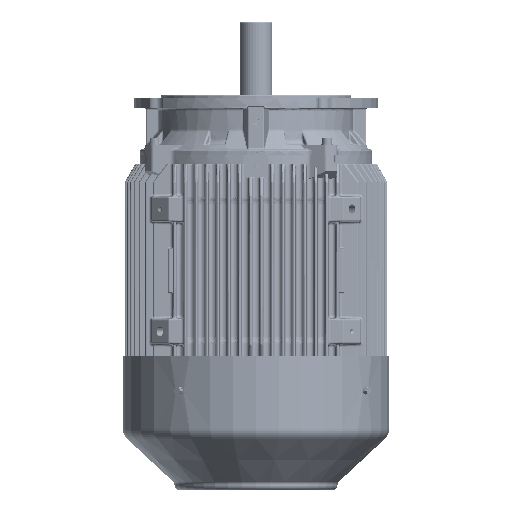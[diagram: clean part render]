
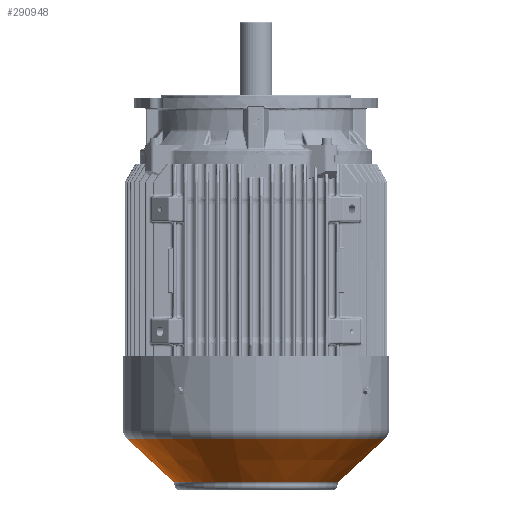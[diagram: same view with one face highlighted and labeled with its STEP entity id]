
A CAD part, front view. The second image highlights one B-rep face of the part: STEP entity #290948.
In plain terms, the highlighted conical face has half-angle 47 degrees and reference radius 152.544 mm.
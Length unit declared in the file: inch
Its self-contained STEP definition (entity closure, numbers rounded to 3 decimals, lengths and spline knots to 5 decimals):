
#13043 = VECTOR ( 'NONE', #284237, 39.37008 ) ;
#14592 = CARTESIAN_POINT ( 'NONE',  ( 6.00567, 0., -15.32216 ) ) ;
#17077 = CIRCLE ( 'NONE', #260660, 9.35236 ) ;
#26242 = DIRECTION ( 'NONE',  ( 1., 0., 0. ) ) ;
#29445 = FACE_OUTER_BOUND ( 'NONE', #153553, .T. ) ;
#44875 = VECTOR ( 'NONE', #66092, 39.37008 ) ;
#66092 = DIRECTION ( 'NONE',  ( -0.731, 0., 0.682 ) ) ;
#77151 = VERTEX_POINT ( 'NONE', #296379 ) ;
#78752 = ORIENTED_EDGE ( 'NONE', *, *, #329507, .F. ) ;
#85872 = EDGE_CURVE ( 'NONE', #267147, #190075, #104799, .T. ) ;
#104799 = LINE ( 'NONE', #110972, #13043 ) ;
#110972 = CARTESIAN_POINT ( 'NONE',  ( 6.00567, 0., -15.32216 ) ) ;
#153553 = EDGE_LOOP ( 'NONE', ( #78752, #331190, #246528, #295809 ) ) ;
#175778 = CARTESIAN_POINT ( 'NONE',  ( 0., 0., -15.32216 ) ) ;
#178704 = DIRECTION ( 'NONE',  ( 0., 0., 1. ) ) ;
#186694 = EDGE_CURVE ( 'NONE', #77151, #190075, #17077, .T. ) ;
#190075 = VERTEX_POINT ( 'NONE', #347424 ) ;
#195812 = LINE ( 'NONE', #207785, #44875 ) ;
#201676 = CARTESIAN_POINT ( 'NONE',  ( 0., 0., -12.20132 ) ) ;
#207785 = CARTESIAN_POINT ( 'NONE',  ( -6.00567, 0., -15.32216 ) ) ;
#218236 = CONICAL_SURFACE ( 'NONE', #294068, 6.00567, 0.82 ) ;
#232821 = CARTESIAN_POINT ( 'NONE',  ( 0., 0., -15.32216 ) ) ;
#233516 = CIRCLE ( 'NONE', #366440, 6.00567 ) ;
#238508 = VERTEX_POINT ( 'NONE', #435388 ) ;
#246528 = ORIENTED_EDGE ( 'NONE', *, *, #85872, .T. ) ;
#260660 = AXIS2_PLACEMENT_3D ( 'NONE', #201676, #376410, #409688 ) ;
#267147 = VERTEX_POINT ( 'NONE', #14592 ) ;
#284237 = DIRECTION ( 'NONE',  ( 0.731, 0., 0.682 ) ) ;
#290948 = ADVANCED_FACE ( 'NONE', ( #29445 ), #218236, .T. ) ;
#294068 = AXIS2_PLACEMENT_3D ( 'NONE', #175778, #178704, #419921 ) ;
#295809 = ORIENTED_EDGE ( 'NONE', *, *, #186694, .F. ) ;
#296379 = CARTESIAN_POINT ( 'NONE',  ( -9.35236, 0., -12.20132 ) ) ;
#329507 = EDGE_CURVE ( 'NONE', #238508, #77151, #195812, .T. ) ;
#331190 = ORIENTED_EDGE ( 'NONE', *, *, #349240, .T. ) ;
#347424 = CARTESIAN_POINT ( 'NONE',  ( 9.35236, 0., -12.20132 ) ) ;
#349240 = EDGE_CURVE ( 'NONE', #238508, #267147, #233516, .T. ) ;
#363989 = DIRECTION ( 'NONE',  ( 0., 0., 1. ) ) ;
#366440 = AXIS2_PLACEMENT_3D ( 'NONE', #232821, #363989, #26242 ) ;
#376410 = DIRECTION ( 'NONE',  ( 0., 0., 1. ) ) ;
#409688 = DIRECTION ( 'NONE',  ( 1., 0., 0. ) ) ;
#419921 = DIRECTION ( 'NONE',  ( 1., 0., 0. ) ) ;
#435388 = CARTESIAN_POINT ( 'NONE',  ( -6.00567, 0., -15.32216 ) ) ;
